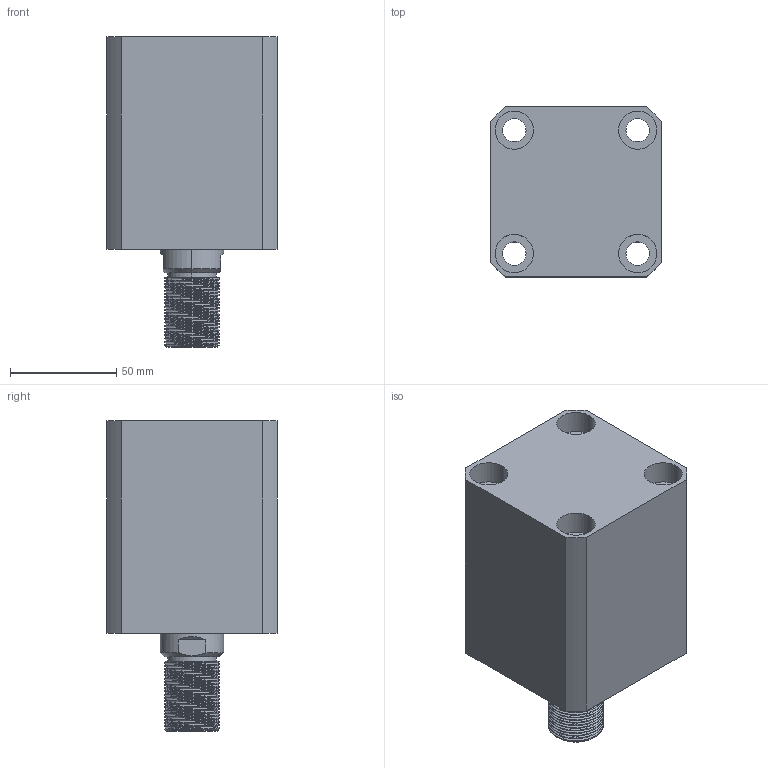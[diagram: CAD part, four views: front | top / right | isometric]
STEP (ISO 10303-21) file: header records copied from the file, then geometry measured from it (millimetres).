
FILE_DESCRIPTION (( 'STEP AP203' ), '1' );
FILE_NAME ('CHTB-SDMA50-40W.STEP', '2018-05-19T01:52:45', ( '' ), ( '' ), 'SwSTEP 2.0', 'SolidWorks 2015', '' );
FILE_SCHEMA (( 'CONFIG_CONTROL_DESIGN' ));
Length unit declared in the file: millimetre
Products named in the file (5): 活塞杆SDMA50-40W; CHTB-SDMA50-40W; M6; 掛极SDMA50-40W; CHTM-SDMA50QG
Assembly tree (5 placements, depth 2):
  CHTB-SDMA50-40W
    掛极SDMA50-40W
    活塞杆SDMA50-40W
    CHTM-SDMA50QG
    M6  x2
Bounding box: 80 x 80 x 146 mm (x, y, z)
Volume: 548156.2 mm3; surface area: 110552.7 mm2
Topology: 5 solids, 5 shells, 312 faces, 831 edges, 553 vertices
Faces by surface type: cylinder 179, plane 60, cone 29, bspline 28, torus 16
Entity records: 17949 total; most frequent: CARTESIAN_POINT 11067, ORIENTED_EDGE 1468, DIRECTION 1169, EDGE_CURVE 734, VERTEX_POINT 492, AXIS2_PLACEMENT_3D 472, EDGE_LOOP 320, FACE_OUTER_BOUND 277
